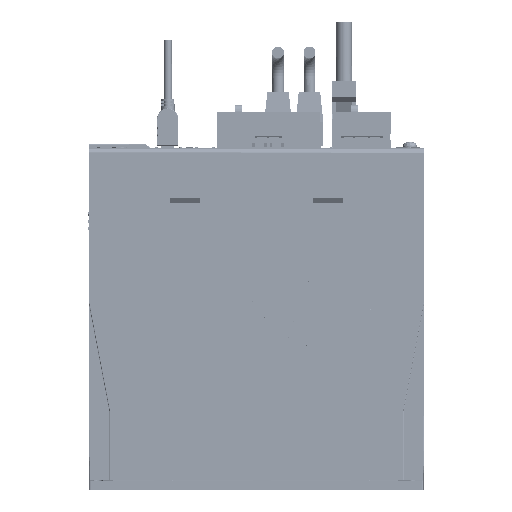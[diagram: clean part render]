
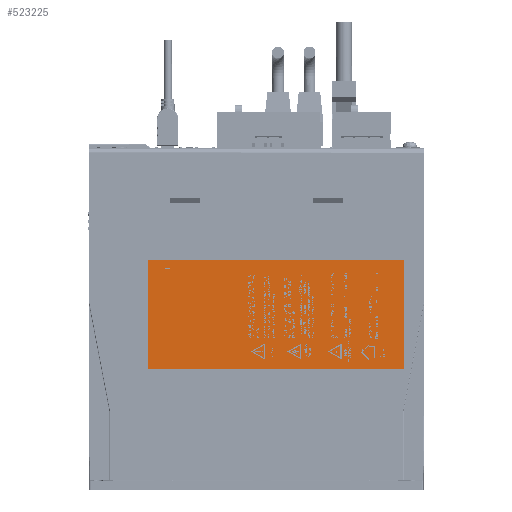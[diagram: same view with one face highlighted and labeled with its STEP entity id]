
A CAD part, left-side view. The second image highlights one B-rep face of the part: STEP entity #523225.
In plain terms, the highlighted planar face has unit normal (-1, 0, 0).
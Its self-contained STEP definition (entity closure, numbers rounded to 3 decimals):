
#504067=CARTESIAN_POINT('Line Origine',(-327.455,82.166,-47.9)) ;
#504071=CARTESIAN_POINT('Vertex',(-327.455,146.666,-47.9)) ;
#504073=CARTESIAN_POINT('Vertex',(-327.455,17.666,-47.9)) ;
#504098=CARTESIAN_POINT('Line Origine',(-327.455,17.666,-75.4)) ;
#504102=CARTESIAN_POINT('Vertex',(-327.455,17.666,-102.9)) ;
#504122=CARTESIAN_POINT('Line Origine',(-327.455,82.166,-102.9)) ;
#504126=CARTESIAN_POINT('Vertex',(-327.455,146.666,-102.9)) ;
#504146=CARTESIAN_POINT('Line Origine',(-327.455,146.666,-75.4)) ;
#523214=CARTESIAN_POINT('Axis2P3D Location',(-327.455,159.626,-108.46)) ;
#504068=DIRECTION('Vector Direction',(0.,-1.,0.)) ;
#504099=DIRECTION('Vector Direction',(0.,0.,-1.)) ;
#504123=DIRECTION('Vector Direction',(0.,1.,0.)) ;
#504147=DIRECTION('Vector Direction',(0.,0.,1.)) ;
#523215=DIRECTION('Axis2P3D Direction',(-1.,0.,0.)) ;
#523216=DIRECTION('Axis2P3D XDirection',(0.,0.,-1.)) ;
#523217=AXIS2_PLACEMENT_3D('Plane Axis2P3D',#523214,#523215,#523216) ;
#523220=ORIENTED_EDGE('',*,*,#504104,.F.) ;
#523221=ORIENTED_EDGE('',*,*,#504075,.F.) ;
#523222=ORIENTED_EDGE('',*,*,#504150,.F.) ;
#523223=ORIENTED_EDGE('',*,*,#504128,.F.) ;
#504069=VECTOR('Line Direction',#504068,1.) ;
#504100=VECTOR('Line Direction',#504099,1.) ;
#504124=VECTOR('Line Direction',#504123,1.) ;
#504148=VECTOR('Line Direction',#504147,1.) ;
#523225=ADVANCED_FACE('MANIFOLD_SOLID_BREP #3088',(#523224),#523218,.T.) ;
#504075=EDGE_CURVE('',#504072,#504074,#504070,.T.) ;
#504104=EDGE_CURVE('',#504074,#504103,#504101,.T.) ;
#504128=EDGE_CURVE('',#504103,#504127,#504125,.T.) ;
#504150=EDGE_CURVE('',#504127,#504072,#504149,.T.) ;
#523219=EDGE_LOOP('',(#523220,#523221,#523222,#523223)) ;
#523224=FACE_OUTER_BOUND('',#523219,.T.) ;
#504070=LINE('Line',#504067,#504069) ;
#504101=LINE('Line',#504098,#504100) ;
#504125=LINE('Line',#504122,#504124) ;
#504149=LINE('Line',#504146,#504148) ;
#523218=PLANE('Plane',#523217) ;
#504072=VERTEX_POINT('',#504071) ;
#504074=VERTEX_POINT('',#504073) ;
#504103=VERTEX_POINT('',#504102) ;
#504127=VERTEX_POINT('',#504126) ;
